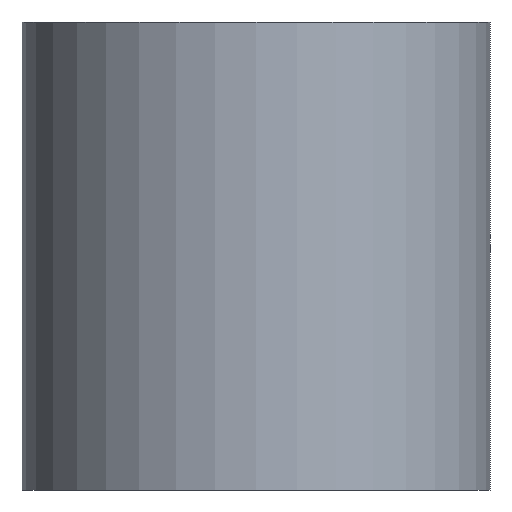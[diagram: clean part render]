
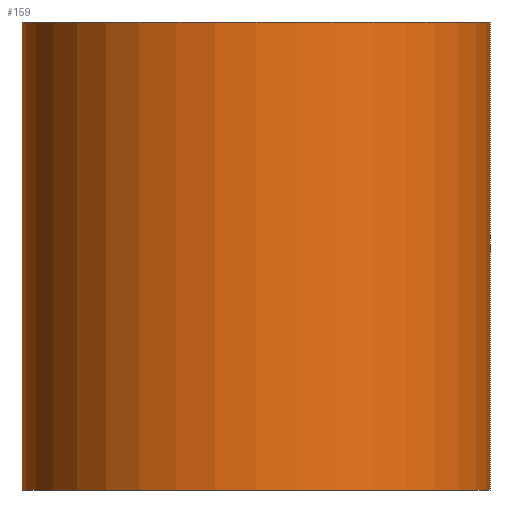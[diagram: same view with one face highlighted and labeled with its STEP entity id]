
A CAD part, front view. The second image highlights one B-rep face of the part: STEP entity #159.
In plain terms, the highlighted cylindrical face has radius 6.35 mm (diameter 12.7 mm), a partial arc.
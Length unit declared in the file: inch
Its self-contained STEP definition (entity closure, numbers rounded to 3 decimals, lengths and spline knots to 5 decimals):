
#7 = AXIS2_PLACEMENT_3D ( 'NONE', #248, #318, #102 ) ;
#9 = CARTESIAN_POINT ( 'NONE',  ( -0.25, 0., 0. ) ) ;
#11 = VECTOR ( 'NONE', #321, 39.37008 ) ;
#19 = AXIS2_PLACEMENT_3D ( 'NONE', #113, #24, #312 ) ;
#22 = LINE ( 'NONE', #198, #11 ) ;
#24 = DIRECTION ( 'NONE',  ( 0., 0., 1. ) ) ;
#29 = CIRCLE ( 'NONE', #7, 0.25 ) ;
#36 = CYLINDRICAL_SURFACE ( 'NONE', #334, 0.25 ) ;
#42 = CARTESIAN_POINT ( 'NONE',  ( 0.25, 0., 0. ) ) ;
#53 = ORIENTED_EDGE ( 'NONE', *, *, #77, .F. ) ;
#77 = EDGE_CURVE ( 'NONE', #265, #207, #22, .T. ) ;
#100 = CARTESIAN_POINT ( 'NONE',  ( -0.25, 0., 0.5 ) ) ;
#102 = DIRECTION ( 'NONE',  ( 1., 0., 0. ) ) ;
#106 = CARTESIAN_POINT ( 'NONE',  ( 0.25, 0., 0.5 ) ) ;
#109 = EDGE_CURVE ( 'NONE', #276, #265, #29, .T. ) ;
#112 = CIRCLE ( 'NONE', #19, 0.25 ) ;
#113 = CARTESIAN_POINT ( 'NONE',  ( 0., 0., 0. ) ) ;
#119 = ORIENTED_EDGE ( 'NONE', *, *, #195, .T. ) ;
#125 = DIRECTION ( 'NONE',  ( 0., 0., -1. ) ) ;
#131 = FACE_OUTER_BOUND ( 'NONE', #309, .T. ) ;
#135 = VECTOR ( 'NONE', #125, 39.37008 ) ;
#154 = DIRECTION ( 'NONE',  ( -1., 0., 0. ) ) ;
#159 = ADVANCED_FACE ( 'NONE', ( #131 ), #36, .T. ) ;
#172 = ORIENTED_EDGE ( 'NONE', *, *, #315, .T. ) ;
#195 = EDGE_CURVE ( 'NONE', #276, #204, #287, .T. ) ;
#198 = CARTESIAN_POINT ( 'NONE',  ( 0.25, 0., 0.5 ) ) ;
#204 = VERTEX_POINT ( 'NONE', #9 ) ;
#207 = VERTEX_POINT ( 'NONE', #42 ) ;
#225 = CARTESIAN_POINT ( 'NONE',  ( -0.25, 0., 0.5 ) ) ;
#248 = CARTESIAN_POINT ( 'NONE',  ( 0., 0., 0.5 ) ) ;
#265 = VERTEX_POINT ( 'NONE', #106 ) ;
#275 = DIRECTION ( 'NONE',  ( 0., 0., -1. ) ) ;
#276 = VERTEX_POINT ( 'NONE', #225 ) ;
#287 = LINE ( 'NONE', #100, #135 ) ;
#300 = CARTESIAN_POINT ( 'NONE',  ( 0., 0., 0.5 ) ) ;
#309 = EDGE_LOOP ( 'NONE', ( #53, #337, #119, #172 ) ) ;
#312 = DIRECTION ( 'NONE',  ( 1., 0., 0. ) ) ;
#315 = EDGE_CURVE ( 'NONE', #204, #207, #112, .T. ) ;
#318 = DIRECTION ( 'NONE',  ( 0., 0., 1. ) ) ;
#321 = DIRECTION ( 'NONE',  ( 0., 0., -1. ) ) ;
#334 = AXIS2_PLACEMENT_3D ( 'NONE', #300, #275, #154 ) ;
#337 = ORIENTED_EDGE ( 'NONE', *, *, #109, .F. ) ;
